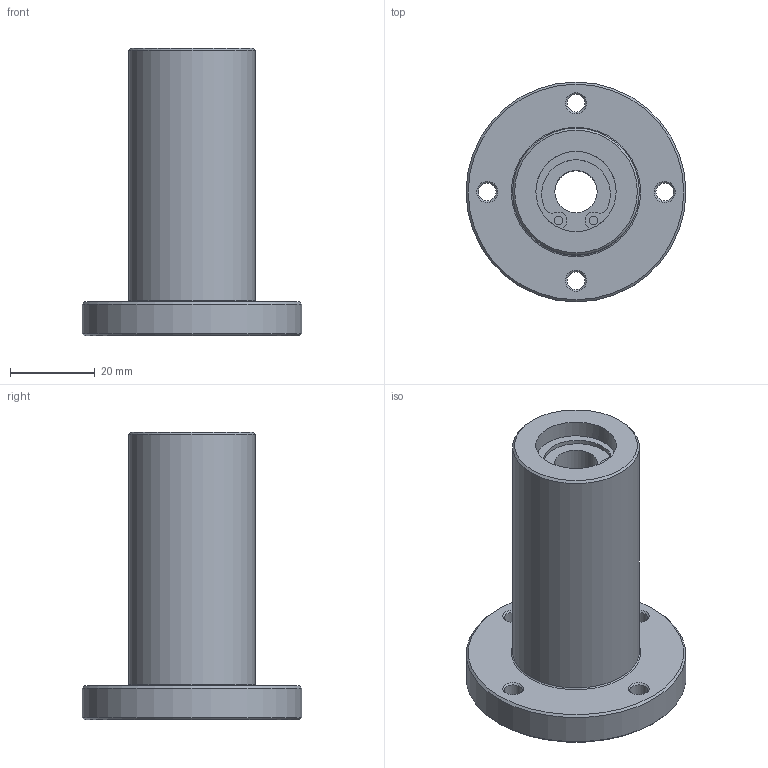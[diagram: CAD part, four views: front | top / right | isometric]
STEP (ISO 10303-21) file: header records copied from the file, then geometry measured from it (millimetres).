
FILE_DESCRIPTION(('STEP AP203'),'1');
FILE_NAME('//192.168.1.1/share/s-4 技術開発/s-4-4_CAD/s-4-4-3_見直し済み/009 修正済み/LCFD-A/LCFD-A_TOP/LCFD-10AVUU.step','2022-02-04T05:53:55',(' '),(' '),'Spatial InterOp 3D',' ',' ');
FILE_SCHEMA(('CONFIG_CONTROL_DESIGN'));
Length unit declared in the file: millimetre
Products named in the file (1): 1
Bounding box: 52 x 52 x 68 mm (x, y, z)
Volume: 51408 mm3; surface area: 13667.6 mm2
Topology: 1 solids, 1 shells, 48 faces, 108 edges, 70 vertices
Faces by surface type: cylinder 24, plane 12, cone 11, torus 1
Full cylindrical faces by diameter (mm): 2 x4, 4.2 x4, 10 x1, 19 x2, 30 x1, 32.3 x1, 52 x1
Entity records: 1228 total; most frequent: DIRECTION 234, CARTESIAN_POINT 185, ORIENTED_EDGE 148, AXIS2_PLACEMENT_3D 111, EDGE_LOOP 92, EDGE_CURVE 74, FACE_OUTER_BOUND 63, VERTEX_POINT 62
